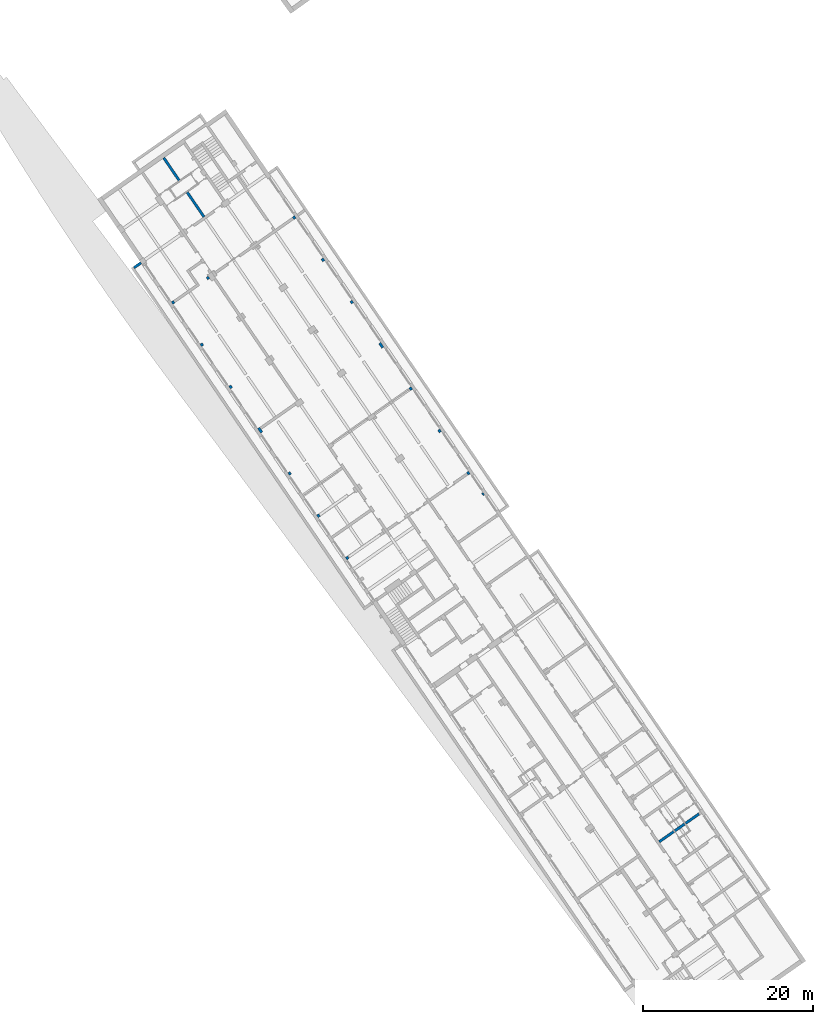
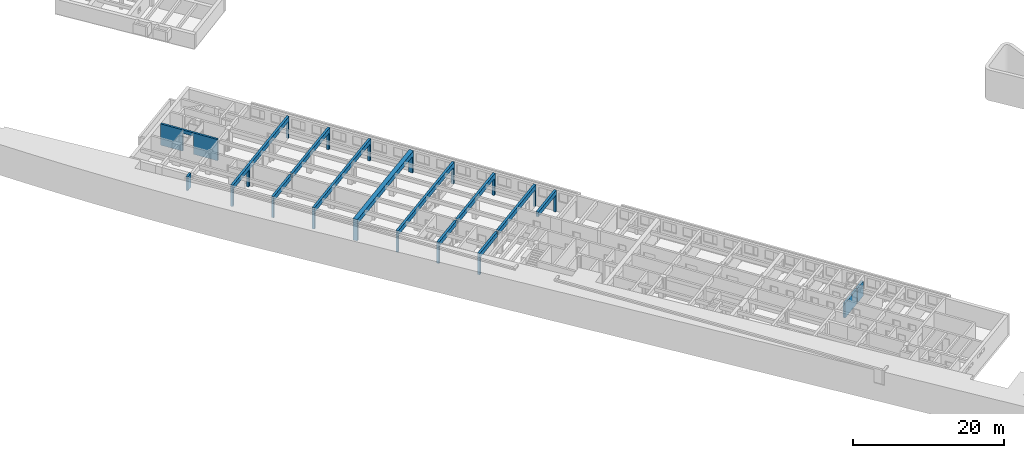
# One storey, part 106 of 112: 11 walls.
"""IFC2X3 building model written with IfcOpenShell, lengths in millimetres."""

import ifcopenshell
import ifcopenshell.guid

model = None  # the IFC model being written
_history = None  # IfcOwnerHistory: only IFC2X3 demands one
_inside = {}  # id of a spatial element -> (the spatial element, [elements in it])
_under = {}  # id of a project, library or spatial element -> (it, [spatial elements below it])
_declared = {}  # id of a project -> (the project, [libraries it declares])
_typed = {}  # id of a type object -> (the type object, [elements of that type])
_made_of = {}  # id of a material, layer set ... -> (it, [elements and type objects made of it])


def new_model(schema):
    """Start an empty IFC model of exactly this schema.

    Asked for "IFC4X3", IfcOpenShell would pick the latest addendum, in which some entities
    have other attributes; the version numbers below select the first issue.
    IFC2X3 requires an IfcOwnerHistory on every rooted entity: one is made here for all.
    """
    global model, _history
    if schema == "IFC4X3":
        model = ifcopenshell.file(schema_version=(4, 3, 0, 0))
    else:
        model = ifcopenshell.file(schema=schema)
    _inside.clear()
    _under.clear()
    _declared.clear()
    _typed.clear()
    _made_of.clear()
    _history = None
    if model.schema == "IFC2X3":
        org = make("IfcOrganization", Name="unknown")
        user = make(
            "IfcPersonAndOrganization",
            ThePerson=make("IfcPerson", FamilyName="unknown"),
            TheOrganization=org,
        )
        app = make(
            "IfcApplication",
            ApplicationDeveloper=org,
            Version="unknown",
            ApplicationFullName="unknown",
            ApplicationIdentifier="unknown",
        )
        _history = make(
            "IfcOwnerHistory",
            OwningUser=user,
            OwningApplication=app,
            ChangeAction="ADDED",
            CreationDate=0,
        )
    return model


def make(cls, **values):
    """One entity of the class cls with the attributes given. An attribute that is None is left unset."""
    return model.create_entity(
        cls, **{name: value for name, value in values.items() if value is not None}
    )


def entity(cls, *values):
    """Any entity or typed value of the class cls, its attributes in the order of the schema. None: left unset."""
    e = model.create_entity(cls)
    for i, value in enumerate(values):
        if value is not None:
            e[i] = value
    return e


def rooted(cls, **values):
    """An entity with a GlobalId (a new one), such as an element, a storey or a relation."""
    return make(cls, GlobalId=ifcopenshell.guid.new(), OwnerHistory=_history, **values)


def si_unit(unit_type, name, prefix=None):
    """IfcSIUnit, for example si_unit("LENGTHUNIT", "METRE", prefix="MILLI")."""
    return make("IfcSIUnit", UnitType=unit_type, Prefix=prefix, Name=name)


def converted_unit(unit_type, name, factor, base, dimensions=None, offset=None):
    """IfcConversionBasedUnit, such as the inch: factor (a typed value) times the base unit."""
    return make(
        "IfcConversionBasedUnit"
        if offset is None
        else "IfcConversionBasedUnitWithOffset",
        ConversionOffset=offset,
        Dimensions=None
        if dimensions is None
        else entity("IfcDimensionalExponents", *dimensions),
        UnitType=unit_type,
        Name=name,
        ConversionFactor=make(
            "IfcMeasureWithUnit", ValueComponent=factor, UnitComponent=base
        ),
    )


def derived_unit(unit_type, elements):
    """IfcDerivedUnit: a product of units, each with its exponent."""
    return make(
        "IfcDerivedUnit",
        Elements=[
            make("IfcDerivedUnitElement", Unit=unit, Exponent=power)
            for unit, power in elements
        ],
        UnitType=unit_type,
    )


def assignment(units):
    """IfcUnitAssignment: the units of a project."""
    return None if units is None else make("IfcUnitAssignment", Units=units)


def point(xyz):
    """IfcCartesianPoint."""
    return None if xyz is None else make("IfcCartesianPoint", Coordinates=xyz)


def direction(xyz):
    """IfcDirection."""
    return None if xyz is None else make("IfcDirection", DirectionRatios=xyz)


def frame(location, z_axis=None, x_axis=None):
    """IfcAxis2Placement3D, a coordinate frame: its origin and axes. An axis left out is left unset."""
    return make(
        "IfcAxis2Placement3D",
        Location=point(location),
        Axis=direction(z_axis),
        RefDirection=direction(x_axis),
    )


def origin():
    """The frame at (0, 0, 0) with its axes left unset."""
    return frame((0.0, 0.0, 0.0))


def place(relative_to, where):
    """IfcLocalPlacement: puts the frame where relative to a parent placement (None: the world)."""
    return make(
        "IfcLocalPlacement", PlacementRelTo=relative_to, RelativePlacement=where
    )


def context(
    kind, dimensions, precision=None, world=None, true_north=None, identifier=None
):
    """IfcGeometricRepresentationContext, for example the 3D "Model" context."""
    return make(
        "IfcGeometricRepresentationContext",
        ContextIdentifier=identifier,
        ContextType=kind,
        CoordinateSpaceDimension=dimensions,
        Precision=precision,
        WorldCoordinateSystem=world,
        TrueNorth=true_north,
    )


def subcontext(parent, identifier, kind, view, scale=None):
    """IfcGeometricRepresentationSubContext, for example "Body" below "Model"."""
    return make(
        "IfcGeometricRepresentationSubContext",
        ContextIdentifier=identifier,
        ContextType=kind,
        ParentContext=parent,
        TargetScale=scale,
        TargetView=view,
    )


def project(units=None, contexts=None):
    """IfcProject with its units and contexts."""
    return rooted(
        "IfcProject",
        Name="project",
        RepresentationContexts=contexts,
        UnitsInContext=assignment(units),
    )


def spatial(cls, under=None, at=None, **own):
    """A site, building, storey or space (cls), placed at a placement, below another one or the project."""
    s = rooted(cls, ObjectPlacement=at, **own)
    if under is not None:
        _under.setdefault(under.id(), (under, []))[1].append(s)
    return s


def faces_of(points, faces, orient=None, outer=None):
    """IfcFace entities. A face is a list of loops; a loop is a list of indices into points, from 0.

    orient and outer hold one flag for each loop. By default every Orientation is true, the
    first loop of a face is its IfcFaceOuterBound and the others are IfcFaceBound.
    """
    made = []
    for i, loops in enumerate(faces):
        bounds = []
        for j, loop in enumerate(loops):
            is_outer = j == 0 if outer is None else outer[i][j]
            bounds.append(
                make(
                    "IfcFaceOuterBound" if is_outer else "IfcFaceBound",
                    Bound=make("IfcPolyLoop", Polygon=[points[k] for k in loop]),
                    Orientation=True if orient is None else orient[i][j],
                )
            )
        made.append(make("IfcFace", Bounds=bounds))
    return made


def faceted_brep(points, faces, orient=None, outer=None, voids=None):
    """IfcFacetedBrep: a solid bounded by flat faces; with voids (closed shells), ...WithVoids."""
    shared = [point(p) for p in points]
    hull = make("IfcClosedShell", CfsFaces=faces_of(shared, faces, orient, outer))
    if voids is None:
        return make("IfcFacetedBrep", Outer=hull)
    return make(
        "IfcFacetedBrepWithVoids",
        Outer=hull,
        Voids=[
            make(cls, CfsFaces=faces_of(shared, fs, o, b)) for cls, fs, o, b in voids
        ],
    )


def shape(context_of_items, identifier, shape_type, items):
    """IfcShapeRepresentation: the items that make up one representation, for example the "Body"."""
    return make(
        "IfcShapeRepresentation",
        ContextOfItems=context_of_items,
        RepresentationIdentifier=identifier,
        RepresentationType=shape_type,
        Items=items,
    )


def material(Name=None, Category=None):
    """IfcMaterial."""
    return make("IfcMaterial", Name=Name, Category=Category)


def layer(
    of_material, thickness, ventilated=None, Name=None, Category=None, Priority=None
):
    """IfcMaterialLayer: one layer of a wall or slab, of a material (None: an air gap)."""
    return make(
        "IfcMaterialLayer",
        Material=of_material,
        LayerThickness=thickness,
        IsVentilated=ventilated,
        Name=Name,
        Category=Category,
        Priority=Priority,
    )


def layer_set(layers, Name=None):
    """IfcMaterialLayerSet."""
    return make("IfcMaterialLayerSet", MaterialLayers=layers, LayerSetName=Name)


def made_of(thing, what):
    """Note that an element or type object is made of a material, layer set ...; save() writes the relation."""
    if what is not None:
        _made_of.setdefault(what.id(), (what, []))[1].append(thing)
    return thing


def type_object(cls, material=None, **own):
    """A type object (cls), such as IfcWallType, which elements share."""
    return made_of(rooted(cls, **own), material)


def element(
    cls,
    number,
    at=None,
    inside=None,
    cuts=None,
    type_object=None,
    material=None,
    context=None,
    identifier="Body",
    shape_type=None,
    held_by="IfcProductDefinitionShape",
    body=None,
    shapes=None,
    **own,
):
    """One element of the class cls, such as IfcWall. Its Tag is "e" and its number.

    at: its placement. inside: the storey or other place that contains it. cuts: it is an
    opening in that element (IfcRelVoidsElement). A single representation is given by context,
    identifier, shape_type and body (its items); several are given by shapes. held_by: the class
    of the entity that holds the representations. save() writes the other relations.
    """
    e = rooted(cls, Tag="e%d" % number, ObjectPlacement=at, **own)
    if body is not None:
        shapes = [shape(context, identifier, shape_type, body)]
    if shapes is not None:
        e.Representation = make(held_by, Representations=shapes)
    if inside is not None:
        _inside.setdefault(inside.id(), (inside, []))[1].append(e)
    if cuts is not None:
        rooted(
            "IfcRelVoidsElement", RelatingBuildingElement=cuts, RelatedOpeningElement=e
        )
    if type_object is not None:
        _typed.setdefault(type_object.id(), (type_object, []))[1].append(e)
    return made_of(e, material)


def aggregate(whole, parts):
    """IfcRelAggregates: a whole, such as a stair, and the parts it consists of."""
    return rooted("IfcRelAggregates", RelatingObject=whole, RelatedObjects=parts)


def save(model, path):
    """Write the relations noted so far, then the file.

    IfcRelAggregates (storeys below a building ...), IfcRelContainedInSpatialStructure (elements
    in a storey), IfcRelDefinesByType, IfcRelAssociatesMaterial and IfcRelDeclares: one each for
    every whole, place, type object, material and project.
    """
    for whole, parts in _under.values():
        aggregate(whole, parts)
    for where, things in _inside.values():
        rooted(
            "IfcRelContainedInSpatialStructure",
            RelatedElements=things,
            RelatingStructure=where,
        )
    for kind, things in _typed.values():
        rooted("IfcRelDefinesByType", RelatedObjects=things, RelatingType=kind)
    for what, things in _made_of.values():
        rooted("IfcRelAssociatesMaterial", RelatedObjects=things, RelatingMaterial=what)
    for by, libraries in _declared.values():
        rooted("IfcRelDeclares", RelatingContext=by, RelatedDefinitions=libraries)
    model.write(path)


model = new_model("IFC2X3")

# Units and contexts
model_context = context("Model", 3, precision=0.01, world=origin(), true_north=direction((6.123031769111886e-17, 1.0)))
body_context = subcontext(model_context, "Body", "Model", "MODEL_VIEW")
ifc_project = project(units=[si_unit("LENGTHUNIT", "METRE", prefix="MILLI"), si_unit("AREAUNIT", "SQUARE_METRE"), si_unit("VOLUMEUNIT", "CUBIC_METRE"), converted_unit("PLANEANGLEUNIT", "DEGREE", entity("IfcRatioMeasure", 0.017453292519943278), si_unit("PLANEANGLEUNIT", "RADIAN"), dimensions=[0, 0, 0, 0, 0, 0, 0]), si_unit("MASSUNIT", "GRAM", prefix="KILO"), derived_unit("MASSDENSITYUNIT", [(si_unit("MASSUNIT", "GRAM", prefix="KILO"), 1), (si_unit("LENGTHUNIT", "METRE"), -3)]), derived_unit("MOMENTOFINERTIAUNIT", [(si_unit("LENGTHUNIT", "METRE"), 4)]), si_unit("TIMEUNIT", "SECOND"), si_unit("FREQUENCYUNIT", "HERTZ"), si_unit("THERMODYNAMICTEMPERATUREUNIT", "DEGREE_CELSIUS"), derived_unit("THERMALTRANSMITTANCEUNIT", [(si_unit("MASSUNIT", "GRAM", prefix="KILO"), 1), (si_unit("THERMODYNAMICTEMPERATUREUNIT", "KELVIN"), -1), (si_unit("TIMEUNIT", "SECOND"), -3)]), derived_unit("THERMALCONDUCTANCEUNIT", [(si_unit("MASSUNIT", "GRAM", prefix="KILO"), 1), (si_unit("LENGTHUNIT", "METRE"), 1), (si_unit("THERMODYNAMICTEMPERATUREUNIT", "KELVIN"), -1), (si_unit("TIMEUNIT", "SECOND"), -3)]), derived_unit("VOLUMETRICFLOWRATEUNIT", [(si_unit("LENGTHUNIT", "METRE"), 3), (si_unit("TIMEUNIT", "SECOND"), -1)]), derived_unit("MASSFLOWRATEUNIT", [(si_unit("MASSUNIT", "GRAM", prefix="KILO"), 1), (si_unit("TIMEUNIT", "SECOND"), -1)]), derived_unit("ROTATIONALFREQUENCYUNIT", [(si_unit("TIMEUNIT", "SECOND"), -1)]), si_unit("ELECTRICCURRENTUNIT", "AMPERE"), si_unit("ELECTRICVOLTAGEUNIT", "VOLT"), si_unit("POWERUNIT", "WATT"), converted_unit("FORCEUNIT", "KIP", entity("IfcRatioMeasure", 2.088543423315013e-05), si_unit("FORCEUNIT", "NEWTON"), dimensions=[1, 1, -2, 0, 0, 0, 0]), si_unit("ILLUMINANCEUNIT", "LUX"), si_unit("LUMINOUSFLUXUNIT", "LUMEN"), si_unit("LUMINOUSINTENSITYUNIT", "CANDELA"), derived_unit("USERDEFINED", [(si_unit("MASSUNIT", "GRAM", prefix="KILO"), -1), (si_unit("LENGTHUNIT", "METRE"), -2), (si_unit("TIMEUNIT", "SECOND"), 3), (si_unit("LUMINOUSFLUXUNIT", "LUMEN"), 1)]), derived_unit("USERDEFINED", [(si_unit("MASSUNIT", "GRAM", prefix="KILO"), 1), (si_unit("LENGTHUNIT", "METRE"), 3), (si_unit("TIMEUNIT", "SECOND"), -3), (si_unit("ELECTRICCURRENTUNIT", "AMPERE"), -2)]), derived_unit("USERDEFINED", [(si_unit("LENGTHUNIT", "METRE"), 2), (si_unit("TIMEUNIT", "SECOND"), -2)]), derived_unit("SOUNDPOWERUNIT", [(si_unit("MASSUNIT", "GRAM", prefix="KILO"), 1), (si_unit("LENGTHUNIT", "METRE"), 2), (si_unit("TIMEUNIT", "SECOND"), -3)]), derived_unit("SOUNDPRESSUREUNIT", [(si_unit("MASSUNIT", "GRAM", prefix="KILO"), 1), (si_unit("LENGTHUNIT", "METRE"), -1), (si_unit("TIMEUNIT", "SECOND"), -2)]), derived_unit("LINEARVELOCITYUNIT", [(si_unit("LENGTHUNIT", "METRE"), 1), (si_unit("TIMEUNIT", "SECOND"), -1)]), si_unit("PRESSUREUNIT", "PASCAL"), derived_unit("USERDEFINED", [(si_unit("LENGTHUNIT", "METRE"), -2), (si_unit("MASSUNIT", "GRAM", prefix="KILO"), 1), (si_unit("TIMEUNIT", "SECOND"), -2)]), derived_unit("LINEARFORCEUNIT", [(si_unit("MASSUNIT", "GRAM", prefix="KILO"), 1), (si_unit("LENGTHUNIT", "METRE"), 1), (si_unit("TIMEUNIT", "SECOND"), -2), (si_unit("LENGTHUNIT", "METRE"), -1)]), derived_unit("PLANARFORCEUNIT", [(si_unit("MASSUNIT", "GRAM", prefix="KILO"), 1), (si_unit("LENGTHUNIT", "METRE"), 1), (si_unit("TIMEUNIT", "SECOND"), -2), (si_unit("LENGTHUNIT", "METRE"), -2)]), derived_unit("SPECIFICHEATCAPACITYUNIT", [(si_unit("LENGTHUNIT", "METRE"), 2), (si_unit("TIMEUNIT", "SECOND"), -2), (si_unit("THERMODYNAMICTEMPERATUREUNIT", "KELVIN"), -1)]), derived_unit("VAPORPERMEABILITYUNIT", [(si_unit("TIMEUNIT", "SECOND"), 1), (si_unit("LENGTHUNIT", "METRE"), -1)]), derived_unit("DYNAMICVISCOSITYUNIT", [(si_unit("MASSUNIT", "GRAM", prefix="KILO"), 1), (si_unit("LENGTHUNIT", "METRE"), -1), (si_unit("TIMEUNIT", "SECOND"), -1)]), derived_unit("THERMALEXPANSIONCOEFFICIENTUNIT", [(si_unit("THERMODYNAMICTEMPERATUREUNIT", "KELVIN"), -1)])], contexts=[model_context])

# Site, building, storey
site_placement = place(None, frame((0.0, 0.0, 0.0), z_axis=(0.0, 0.0, 1.0), x_axis=(0.8191520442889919, 0.5735764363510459, 0.0)))
site = spatial("IfcSite", under=ifc_project, at=site_placement, Name="Default", CompositionType="ELEMENT")
building_placement = place(site_placement, origin())
building = spatial("IfcBuilding", under=site, at=building_placement, CompositionType="ELEMENT")
storey_placement = place(building_placement, frame((0.0, 0.0, -3600.0)))
storey = spatial("IfcBuildingStorey", under=building, at=storey_placement, Name="0.UG -3.60", CompositionType="ELEMENT", Elevation=-3600.0000000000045)

# Walls
ifc_material = material(Name="Analytical Wall Surface_CJC")
ifc_layer_1 = layer(ifc_material, 300.0)
ifc_layer_set_1 = layer_set([ifc_layer_1], Name="Basic Wall:Wand_Innen_30")
wall_type_1 = type_object("IfcWallType", Name="Basic Wall:Wand_Innen_30", PredefinedType="STANDARD", material=ifc_layer_set_1)
wall_1_placement = place(storey_placement, frame((-205935.31932101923, 73396.35891435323, 300.0), z_axis=(0.0, 0.0, 1.0), x_axis=(-1.0, 0.0, 0.0)))
element("IfcWall", 1, at=wall_1_placement, inside=storey, type_object=wall_type_1, Name="Basic Wall:Wand_Innen_30", ObjectType="Basic Wall:Wand_Innen_30", context=body_context, shape_type="Brep", body=[
    faceted_brep([(0.0, -150.0, 2400.0), (0.0, -150.0, 0.0), (1923.2740297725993, -150.0, 0.0), (1923.2740297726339, -150.0, 2400.0), (0.0, 150.0, 0.0), (1927.0932155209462, 150.0, 0.0), (0.0, 150.0, 2400.0), (1927.0932155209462, 150.0, 2400.0)], [[[0, 1, 2, 3]], [[1, 4, 5, 2]], [[1, 0, 6, 4]], [[3, 2, 5, 7]], [[6, 0, 3, 7]], [[4, 6, 7, 5]]]),
    faceted_brep([(5702.399107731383, 150.0, 2400.0), (5702.399107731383, 150.0, 0.0), (2052.1033444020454, 150.0, 0.0), (2052.1033444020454, 150.0, 2400.0), (3472.218408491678, 150.0, 2400.0), (3472.218408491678, 150.0, 2150.0), (3602.228942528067, 150.0, 2150.0), (3602.228942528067, 150.0, 2400.0), (5698.579921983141, -150.0, 2400.0), (3598.409756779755, -150.0, 2400.0), (5698.579921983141, -150.0, 0.0), (3468.3992227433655, -150.0, 2400.0), (3468.3992227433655, -150.0, 0.0), (3472.0020312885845, 133.0034030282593, 0.0), (3472.0020312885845, 133.00340302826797, 2150.0), (3598.409756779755, -150.0, 0.0), (3601.9914981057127, 131.34855663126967, 2150.0), (3601.9914981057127, 131.34855663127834, 0.0), (2048.2841586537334, -150.0, 0.0), (2048.2841586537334, -150.0, 2400.0)], [[[0, 1, 2, 3, 4, 5, 6, 7]], [[8, 0, 7, 9]], [[8, 10, 1, 0]], [[11, 12, 13, 14, 5, 4]], [[15, 9, 7, 6, 16, 17]], [[18, 19, 3, 2]], [[14, 13, 17, 16]], [[14, 16, 6, 5]], [[11, 4, 3, 19]], [[1, 10, 15, 17, 13, 12, 18, 2]], [[12, 11, 19, 18]], [[10, 8, 9, 15]]]),
])
wall_2_placement = place(storey_placement, frame((-213330.76039386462, 164144.44947620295, 0.0), z_axis=(0.0, 0.0, 1.0), x_axis=(0.012729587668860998, 0.999918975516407, 0.0)))
element("IfcWall", 2, at=wall_2_placement, inside=storey, type_object=wall_type_1, Name="Basic Wall:Wand_Innen_30", ObjectType="Basic Wall:Wand_Innen_30", context=body_context, shape_type="Brep", body=[
    faceted_brep([(3.819185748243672, -150.0, 0.0), (3504.1027944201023, -150.0, 0.0), (3504.1027944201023, -150.0, 2900.0), (3629.1129233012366, -150.0, 2900.0), (5029.226366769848, -150.0, 2900.0), (5154.236495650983, -150.0, 2900.0), (5154.236495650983, -150.0, 0.0), (8379.497820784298, -150.0, 0.0), (8379.497820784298, -150.0, 3450.0), (5154.236495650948, -150.0, 3450.0), (5029.226366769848, -150.0, 3450.0), (3629.1129233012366, -150.0, 3450.0), (3504.102794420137, -150.0, 3450.0), (3.819185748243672, -150.0, 3450.0), (0.0, 150.0, 0.0), (0.0, 150.0, 3450.0), (3500.283608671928, 150.0, 3450.0), (3625.2937375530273, 150.0, 3450.0), (5025.407181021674, 150.0, 3450.0), (5150.417309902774, 150.0, 3450.0), (8375.678635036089, 150.0, 3450.0), (8375.678635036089, 150.0, 0.0), (5150.417309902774, 150.0, 0.0), (5150.417309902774, 150.0, 2900.0), (5025.407181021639, 150.0, 2900.0), (3625.2937375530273, 150.0, 2900.0), (3500.2836086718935, 150.0, 2900.0), (3500.2836086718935, 150.0, 0.0)], [[[0, 1, 2, 3, 4, 5, 6, 7, 8, 9, 10, 11, 12, 13]], [[14, 15, 16, 17, 18, 19, 20, 21, 22, 23, 24, 25, 26, 27]], [[0, 13, 15, 14]], [[8, 7, 21, 20]], [[1, 0, 14, 27]], [[13, 12, 11, 10, 9, 8, 20, 19, 18, 17, 16, 15]], [[5, 4, 3, 2, 26, 25, 24, 23]], [[7, 6, 22, 21]], [[2, 1, 27, 26]], [[6, 5, 23, 22]]]),
])
ifc_layer_2 = layer(ifc_material, 350.0)
ifc_layer_set_2 = layer_set([ifc_layer_2], Name="Basic Wall:Wand_Innen_35")
wall_type_2 = type_object("IfcWallType", Name="Basic Wall:Wand_Innen_35", PredefinedType="STANDARD", material=ifc_layer_set_2)
wall_3_placement = place(storey_placement, frame((-204708.8626845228, 145996.35891435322, 0.0), z_axis=(0.0, 0.0, 1.0), x_axis=(-1.0, 0.0, 0.0)))
element("IfcWall", 3, at=wall_3_placement, inside=storey, type_object=wall_type_2, Name="Basic Wall:Wand_Innen_35", ObjectType="Basic Wall:Wand_Innen_35", context=body_context, shape_type="Brep", body=[
    faceted_brep([(0.0, -175.0, 0.0), (302.21368542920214, -175.0, 0.0), (302.21368542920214, -175.0, 2700.0), (5377.701174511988, -175.0, 2700.0), (6277.701174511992, -175.0, 2700.0), (11454.004437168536, -175.0, 2700.0), (12354.00443716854, -175.0, 2700.0), (17353.635057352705, -175.0, 2700.0), (17353.635057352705, -175.0, 0.0), (17651.370045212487, -175.0, 0.0), (17651.370045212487, -175.0, 3450.0), (15347.612322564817, -175.0, 3450.0), (15047.588013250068, -175.0, 3450.0), (12354.00443716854, -175.0, 3450.0), (11454.004437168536, -175.0, 3450.0), (9000.718435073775, -175.0, 3450.0), (8700.694125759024, -175.0, 3450.0), (6277.701174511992, -175.0, 3450.0), (6000.475341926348, -175.0, 3450.0), (5700.451032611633, -175.0, 3450.0), (5377.701174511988, -175.0, 3450.0), (3077.346445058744, -175.0, 3450.0), (2777.322135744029, -175.0, 3450.0), (0.0, -175.0, 3450.0), (4.455731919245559, 175.0, 0.0), (4.455731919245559, 175.0, 3450.0), (2781.77785245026, 175.0, 3450.0), (3081.8021617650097, 175.0, 3450.0), (5377.701174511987, 175.0, 3450.0), (5704.9067493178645, 175.0, 3450.0), (6004.931058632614, 175.0, 3450.0), (6277.701174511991, 175.0, 3450.0), (8705.149842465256, 175.0, 3450.0), (9005.174151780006, 175.0, 3450.0), (11454.004437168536, 175.0, 3450.0), (12354.00443716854, 175.0, 3450.0), (15052.0437299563, 175.0, 3450.0), (15352.068039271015, 175.0, 3450.0), (17655.825761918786, 175.0, 3450.0), (17655.825761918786, 175.0, 0.0), (17353.635057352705, 175.0, 0.0), (17353.635057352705, 175.0, 2700.0), (12354.00443716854, 175.0, 2700.0), (11454.004437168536, 175.0, 2700.0), (6277.701174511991, 175.0, 2700.0), (5377.701174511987, 175.0, 2700.0), (302.21368542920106, 175.0, 2700.0), (302.21368542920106, 175.0, 0.0)], [[[0, 1, 2, 3, 4, 5, 6, 7, 8, 9, 10, 11, 12, 13, 14, 15, 16, 17, 18, 19, 20, 21, 22, 23]], [[24, 25, 26, 27, 28, 29, 30, 31, 32, 33, 34, 35, 36, 37, 38, 39, 40, 41, 42, 43, 44, 45, 46, 47]], [[10, 9, 39, 38]], [[0, 23, 25, 24]], [[23, 22, 21, 20, 19, 18, 17, 16, 15, 14, 13, 12, 11, 10, 38, 37, 36, 35, 34, 33, 32, 31, 30, 29, 28, 27, 26, 25]], [[1, 0, 24, 47]], [[2, 1, 47, 46]], [[7, 6, 5, 4, 3, 2, 46, 45, 44, 43, 42, 41]], [[8, 7, 41, 40]], [[9, 8, 40, 39]]]),
])
wall_4_placement = place(storey_placement, frame((-204632.47870876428, 151996.35891435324, 0.0), z_axis=(0.0, 0.0, 1.0), x_axis=(-1.0, 0.0, 0.0)))
element("IfcWall", 4, at=wall_4_placement, inside=storey, type_object=wall_type_2, Name="Basic Wall:Wand_Innen_35", ObjectType="Basic Wall:Wand_Innen_35", context=body_context, shape_type="Brep", body=[
    faceted_brep([(0.0, -175.0, 0.0), (302.25373875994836, -175.0, 0.0), (302.25373875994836, -175.0, 2700.0), (5377.701435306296, -175.0, 2700.0), (6277.701435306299, -175.0, 2700.0), (11452.680290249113, -175.0, 2700.0), (11751.01328274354, -175.0, 2700.0), (11751.01328274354, -175.0, 3450.0), (11452.680290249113, -175.0, 3450.0), (9000.718695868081, -175.0, 3450.0), (8700.694386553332, -175.0, 3450.0), (6277.701435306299, -175.0, 3450.0), (6000.47560272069, -175.0, 3450.0), (5700.451293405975, -175.0, 3450.0), (5377.701435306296, -175.0, 3450.0), (3077.346705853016, -175.0, 3450.0), (2777.322396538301, -175.0, 3450.0), (0.0, -175.0, 3450.0), (4.455731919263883, 175.0, 0.0), (302.2537387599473, 175.0, 0.0), (302.2537387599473, 175.0, 2700.0), (5377.701435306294, 175.0, 2700.0), (6277.701435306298, 175.0, 2700.0), (11452.68029024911, 175.0, 2700.0), (11755.47284495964, 175.0, 2700.0), (4.455731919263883, 175.0, 3450.0), (11755.47284495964, 175.0, 3450.0), (11452.68029024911, 175.0, 3450.0), (9005.174412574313, 175.0, 3450.0), (8705.150103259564, 175.0, 3450.0), (6277.701435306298, 175.0, 3450.0), (6004.931319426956, 175.0, 3450.0), (5704.907010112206, 175.0, 3450.0), (5377.701435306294, 175.0, 3450.0), (3081.8024225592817, 175.0, 3450.0), (2781.778113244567, 175.0, 3450.0)], [[[0, 1, 2, 3, 4, 5, 6, 7, 8, 9, 10, 11, 12, 13, 14, 15, 16, 17]], [[1, 0, 18, 19]], [[2, 1, 19, 20]], [[2, 20, 21, 22, 23, 24, 6, 5, 4, 3]], [[0, 17, 25, 18]], [[7, 6, 24, 26]], [[25, 17, 16, 15, 14, 13, 12, 11, 10, 9, 8, 7, 26, 27, 28, 29, 30, 31, 32, 33, 34, 35]], [[19, 18, 25, 35, 34, 33, 32, 31, 30, 29, 28, 27, 26, 24, 23, 22, 21, 20]]]),
    faceted_brep([(17353.675110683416, 175.0, 0.0), (17353.675110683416, 175.0, 2700.0), (12352.680290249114, 175.0, 2700.0), (12055.497196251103, 175.0, 2700.0), (12055.497196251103, 175.0, 3450.0), (12352.680290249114, 175.0, 3450.0), (15052.04399075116, 175.0, 3450.0), (15352.068300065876, 175.0, 3450.0), (17655.826022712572, 175.0, 3450.0), (17655.826022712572, 175.0, 0.0), (17651.37030600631, -175.0, 3450.0), (12051.037634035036, -175.0, 3450.0), (12352.680290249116, -175.0, 3450.0), (15047.58827404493, -175.0, 3450.0), (15347.61258335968, -175.0, 3450.0), (17353.67511068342, -175.0, 0.0), (17353.67511068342, -175.0, 2700.0), (17651.37030600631, -175.0, 0.0), (12051.037634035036, -175.0, 2700.0), (12352.680290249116, -175.0, 2700.0)], [[[0, 1, 2, 3, 4, 5, 6, 7, 8, 9]], [[10, 8, 7, 6, 5, 4, 11, 12, 13, 14]], [[15, 16, 1, 0]], [[17, 15, 0, 9]], [[10, 17, 9, 8]], [[18, 11, 4, 3]], [[1, 16, 19, 18, 3, 2]], [[16, 15, 17, 10, 14, 13, 12, 11, 18, 19]]]),
])
wall_5_placement = place(storey_placement, frame((-204556.0947330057, 157996.35891435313, 0.0), z_axis=(0.0, 0.0, 1.0), x_axis=(-1.0, 0.0, 0.0)))
element("IfcWall", 5, at=wall_5_placement, inside=storey, type_object=wall_type_2, Name="Basic Wall:Wand_Innen_35", ObjectType="Basic Wall:Wand_Innen_35", context=body_context, shape_type="Brep", body=[
    faceted_brep([(0.0, -175.0, 0.0), (300.3444066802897, -175.0, 0.0), (300.3444066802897, -175.0, 2700.0), (2777.334471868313, -175.0, 2700.0), (3077.358781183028, -175.0, 2700.0), (5382.701696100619, -175.0, 2700.0), (6282.701696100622, -175.0, 2700.0), (11453.187882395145, -175.0, 2700.0), (11750.954265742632, -175.0, 2700.0), (12351.002900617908, -175.0, 2700.0), (12351.002900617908, -175.0, 0.0), (12353.187882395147, -175.0, 0.0), (12653.254733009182, -175.0, 0.0), (12653.254733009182, -175.0, 2700.0), (17351.76577860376, -175.0, 2700.0), (17351.76577860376, -175.0, 0.0), (17651.370566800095, -175.0, 0.0), (17651.370566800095, -175.0, 3450.0), (15347.61284415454, -175.0, 3450.0), (15047.588534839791, -175.0, 3450.0), (12353.187882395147, -175.0, 3450.0), (12351.002900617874, -175.0, 3450.0), (11750.954265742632, -175.0, 3450.0), (11453.187882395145, -175.0, 3450.0), (9000.71895666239, -175.0, 3450.0), (8700.69464734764, -175.0, 3450.0), (6282.701696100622, -175.0, 3450.0), (6000.475863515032, -175.0, 3450.0), (5700.451554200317, -175.0, 3450.0), (5382.701696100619, -175.0, 3450.0), (3077.358781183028, -175.0, 3450.0), (2777.3344718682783, -175.0, 3450.0), (0.0, -175.0, 3450.0), (4.455731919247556, 175.0, 0.0), (4.455731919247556, 175.0, 3450.0), (2781.7783740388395, 175.0, 3450.0), (3081.8026833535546, 175.0, 3450.0), (5382.701696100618, 175.0, 3450.0), (5704.907270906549, 175.0, 3450.0), (6004.931580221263, 175.0, 3450.0), (6282.701696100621, 175.0, 3450.0), (8705.15036405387, 175.0, 3450.0), (9005.17467336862, 175.0, 3450.0), (11453.187882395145, 175.0, 3450.0), (11755.410726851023, 175.0, 3450.0), (15052.044251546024, 175.0, 3450.0), (15352.068560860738, 175.0, 3450.0), (17655.82628350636, 175.0, 3450.0), (17655.82628350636, 175.0, 0.0), (17351.76577860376, 175.0, 0.0), (17351.76577860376, 175.0, 2700.0), (12653.254733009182, 175.0, 2700.0), (12653.254733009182, 175.0, 0.0), (12355.459361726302, 175.0, 0.0), (12355.459361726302, 175.0, 2700.0), (11755.410726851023, 175.0, 2700.0), (11453.187882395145, 175.0, 2700.0), (6282.701696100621, 175.0, 2700.0), (5382.701696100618, 175.0, 2700.0), (300.3444066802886, 175.0, 2700.0), (300.3444066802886, 175.0, 0.0), (300.3444066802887, 150.0, 0.0), (300.34440668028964, -150.0, 0.0), (17351.76577860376, 150.0, 0.0), (17351.76577860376, -150.0, 0.0)], [[[0, 1, 2, 3, 4, 5, 6, 7, 8, 9, 10, 11, 12, 13, 14, 15, 16, 17, 18, 19, 20, 21, 22, 23, 24, 25, 26, 27, 28, 29, 30, 31, 32]], [[33, 34, 35, 36, 37, 38, 39, 40, 41, 42, 43, 44, 45, 46, 47, 48, 49, 50, 51, 52, 53, 54, 55, 56, 57, 58, 59, 60]], [[32, 31, 30, 29, 28, 27, 26, 25, 24, 23, 22, 21, 20, 19, 18, 17, 47, 46, 45, 44, 43, 42, 41, 40, 39, 38, 37, 36, 35, 34]], [[1, 0, 33, 60, 61, 62]], [[2, 1, 62, 61, 60, 59]], [[14, 13, 51, 50]], [[15, 14, 50, 49, 63, 64]], [[16, 15, 64, 63, 49, 48]], [[17, 16, 48, 47]], [[0, 32, 34, 33]], [[9, 8, 7, 6, 5, 4, 3, 2, 59, 58, 57, 56, 55, 54]], [[12, 11, 10, 53, 52]], [[13, 12, 52, 51]], [[10, 9, 54, 53]]]),
])
wall_6_placement = place(storey_placement, frame((-204941.83381058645, 127696.35891435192, 0.0), z_axis=(0.0, 0.0, 1.0), x_axis=(-1.0, 0.0, 0.0)))
element("IfcWall", 6, at=wall_6_placement, inside=storey, type_object=wall_type_2, Name="Basic Wall:Wand_Innen_35", ObjectType="Basic Wall:Wand_Innen_35", context=body_context, shape_type="Brep", body=[
    faceted_brep([(0.0, -175.0, 0.0), (302.2128900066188, -175.0, 0.0), (302.2128900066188, -175.0, 2700.0), (5352.70037908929, -175.0, 2700.0), (6302.700379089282, -175.0, 2700.0), (11449.831011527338, -175.0, 2700.0), (11750.952629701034, -175.0, 2700.0), (11750.952629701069, -175.0, 3450.0), (11449.831011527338, -175.0, 3450.0), (9000.717639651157, -175.0, 3450.0), (8700.693330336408, -175.0, 3450.0), (6302.700379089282, -175.0, 3450.0), (6000.474546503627, -175.0, 3450.0), (5700.450237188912, -175.0, 3450.0), (5352.70037908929, -175.0, 3450.0), (3077.3456496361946, -175.0, 3450.0), (2777.321340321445, -175.0, 3450.0), (0.0, -175.0, 3450.0), (4.455731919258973, 175.0, 0.0), (302.2128900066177, 175.0, 0.0), (302.2128900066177, 175.0, 2700.0), (5352.700379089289, 175.0, 2700.0), (6302.70037908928, 175.0, 2700.0), (11449.831011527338, 175.0, 2700.0), (11755.408346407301, 175.0, 2700.0), (4.455731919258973, 175.0, 3450.0), (11755.408346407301, 175.0, 3450.0), (11449.831011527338, 175.0, 3450.0), (9005.173356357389, 175.0, 3450.0), (8705.149047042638, 175.0, 3450.0), (6302.70037908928, 175.0, 3450.0), (6004.930263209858, 175.0, 3450.0), (5704.905953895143, 175.0, 3450.0), (5352.700379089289, 175.0, 3450.0), (3081.801366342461, 175.0, 3450.0), (2781.777057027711, 175.0, 3450.0)], [[[0, 1, 2, 3, 4, 5, 6, 7, 8, 9, 10, 11, 12, 13, 14, 15, 16, 17]], [[1, 0, 18, 19]], [[2, 1, 19, 20]], [[2, 20, 21, 22, 23, 24, 6, 5, 4, 3]], [[0, 17, 25, 18]], [[7, 6, 24, 26]], [[25, 17, 16, 15, 14, 13, 12, 11, 10, 9, 8, 7, 26, 27, 28, 29, 30, 31, 32, 33, 34, 35]], [[19, 18, 25, 35, 34, 33, 32, 31, 30, 29, 28, 27, 26, 24, 23, 22, 21, 20]]]),
    faceted_brep([(17655.824966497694, 175.0, 0.0), (17353.63426193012, 175.0, 0.0), (17353.63426193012, 175.0, 900.0), (17353.63426193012, 175.0, 2700.0), (13303.634261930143, 175.0, 2700.0), (12349.83101152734, 175.0, 2700.0), (12055.432655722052, 175.0, 2700.0), (12055.432655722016, 175.0, 3450.0), (12349.83101152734, 175.0, 3450.0), (15052.042934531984, 175.0, 3450.0), (15352.067243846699, 175.0, 3450.0), (17655.824966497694, 175.0, 3450.0), (17651.369249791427, -175.0, 3450.0), (12050.976939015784, -175.0, 3450.0), (12349.83101152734, -175.0, 3450.0), (15047.58721782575, -175.0, 3450.0), (15347.611527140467, -175.0, 3450.0), (17353.63426193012, -175.0, 2700.0), (17353.63426193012, 150.0, 0.0), (17353.63426193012, -150.0, 0.0), (17353.63426193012, -175.0, 0.0), (17353.63426193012, -175.0, 900.0), (17651.369249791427, -175.0, 0.0), (12050.976939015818, -175.0, 2700.0), (13303.634261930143, -175.0, 2700.0), (12349.83101152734, -175.0, 2700.0)], [[[0, 1, 2, 3, 4, 5, 6, 7, 8, 9, 10, 11]], [[12, 11, 10, 9, 8, 7, 13, 14, 15, 16]], [[17, 3, 2, 1, 18, 19, 20, 21]], [[22, 20, 19, 18, 1, 0]], [[12, 22, 0, 11]], [[23, 13, 7, 6]], [[3, 17, 24, 25, 23, 6, 5, 4]], [[20, 22, 12, 16, 15, 14, 13, 23, 25, 24, 17, 21]]]),
])
wall_7_placement = place(storey_placement, frame((-205018.217786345, 121696.35891435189, 0.0), z_axis=(0.0, 0.0, 1.0), x_axis=(-1.0, 0.0, 0.0)))
element("IfcWall", 7, at=wall_7_placement, inside=storey, type_object=wall_type_2, Name="Basic Wall:Wand_Innen_35", ObjectType="Basic Wall:Wand_Innen_35", context=body_context, shape_type="Brep", body=[
    faceted_brep([(0.0, -175.0, 0.0), (302.2126292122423, -175.0, 0.0), (302.2126292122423, -175.0, 2700.0), (11750.95236890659, -175.0, 2700.0), (11750.95236890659, -175.0, 3450.0), (9000.71737885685, -175.0, 3450.0), (8700.6930695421, -175.0, 3450.0), (3077.345388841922, -175.0, 3450.0), (2777.3210795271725, -175.0, 3450.0), (0.0, -175.0, 3450.0), (4.455731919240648, 175.0, 0.0), (302.2126292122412, 175.0, 0.0), (302.2126292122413, 150.0, 0.0), (302.21262921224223, -150.0, 0.0), (302.2126292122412, 175.0, 2700.0), (8705.148651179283, 175.0, 2700.0), (9005.172960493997, 175.0, 2700.0), (11755.40808561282, 175.0, 2700.0), (4.455731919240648, 175.0, 3450.0), (11755.40808561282, 175.0, 3450.0), (9005.172960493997, 175.0, 3450.0), (8705.148651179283, 175.0, 3450.0)], [[[0, 1, 2, 3, 4, 5, 6, 7, 8, 9]], [[1, 0, 10, 11, 12, 13]], [[2, 1, 13, 12, 11, 14]], [[2, 14, 15, 16, 17, 3]], [[0, 9, 18, 10]], [[4, 3, 17, 19]], [[18, 9, 8, 7, 6, 5, 4, 19, 20, 21]], [[11, 10, 18, 21, 20, 19, 17, 16, 15, 14]]]),
    faceted_brep([(17353.634001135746, 175.0, 0.0), (17353.634001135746, 175.0, 2700.0), (17255.170851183, 175.0, 2700.0), (12755.170851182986, 175.0, 2700.0), (12055.43239492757, 175.0, 2700.0), (12055.43239492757, 175.0, 3450.0), (17655.824705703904, 175.0, 3450.0), (17655.824705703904, 175.0, 0.0), (17651.36898899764, -175.0, 3450.0), (12050.976678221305, -175.0, 3450.0), (15047.586957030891, -175.0, 3450.0), (15347.611266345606, -175.0, 3450.0), (17353.634001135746, -175.0, 0.0), (17353.634001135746, -175.0, 2700.0), (17353.634001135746, 150.0, 0.0), (17353.634001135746, -150.0, 0.0), (17651.36898899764, -175.0, 0.0), (12050.97667822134, -175.0, 2700.0), (17255.170851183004, -175.0, 2700.0), (12755.170851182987, -175.0, 2700.0)], [[[0, 1, 2, 3, 4, 5, 6, 7]], [[8, 6, 5, 9, 10, 11]], [[12, 13, 1, 0, 14, 15]], [[16, 12, 15, 14, 0, 7]], [[8, 16, 7, 6]], [[17, 9, 5, 4]], [[1, 13, 18, 19, 17, 4, 3, 2]], [[13, 12, 16, 8, 11, 10, 9, 17, 19, 18]]]),
])
wall_8_placement = place(storey_placement, frame((-205056.40977422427, 118696.3589143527, 0.0), z_axis=(0.0, 0.0, 1.0), x_axis=(-1.0, 0.0, 0.0)))
element("IfcWall", 8, at=wall_8_placement, inside=storey, type_object=wall_type_2, Name="Basic Wall:Wand_Innen_35", ObjectType="Basic Wall:Wand_Innen_35", context=body_context, shape_type="Brep", body=[
    faceted_brep([(0.0, -175.0, 0.0), (202.20439571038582, -175.0, 0.0), (202.20439571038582, -175.0, 2700.0), (5700.449845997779, -175.0, 2700.0), (5700.449845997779, -175.0, 3450.0), (0.0, -175.0, 3450.0), (202.2043957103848, 175.0, 0.0), (4.455731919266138, 175.0, 0.0), (4.455731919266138, 175.0, 3450.0), (5704.90556270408, 175.0, 3450.0), (5704.90556270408, 175.0, 2700.0), (202.2043957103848, 175.0, 2700.0)], [[[0, 1, 2, 3, 4, 5]], [[6, 7, 8, 9, 10, 11]], [[1, 0, 7, 6]], [[2, 1, 6, 11]], [[3, 2, 11, 10]], [[5, 4, 9, 8]], [[0, 5, 8, 7]], [[4, 3, 10, 9]]]),
])
wall_9_placement = place(storey_placement, frame((-204865.44983482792, 133696.35891435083, 0.0), z_axis=(0.0, 0.0, 1.0), x_axis=(-1.0, 0.0, 0.0)))
element("IfcWall", 9, at=wall_9_placement, inside=storey, type_object=wall_type_2, Name="Basic Wall:Wand_Innen_35", ObjectType="Basic Wall:Wand_Innen_35", context=body_context, shape_type="Brep", body=[
    faceted_brep([(17651.369510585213, -175.0, 3450.0), (15347.61178793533, -175.0, 3450.0), (15047.587478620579, -175.0, 3450.0), (9000.71790044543, -175.0, 3450.0), (8700.693591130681, -175.0, 3450.0), (6000.474807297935, -175.0, 3450.0), (5700.450497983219, -175.0, 3450.0), (3077.3459104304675, -175.0, 3450.0), (2777.321601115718, -175.0, 3450.0), (0.0, -175.0, 3450.0), (0.0, -175.0, 0.0), (302.2131508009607, -175.0, 0.0), (302.2131508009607, -175.0, 2700.0), (17353.634522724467, -175.0, 2700.0), (17353.634522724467, -175.0, 0.0), (17651.369510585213, -175.0, 0.0), (4.455731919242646, 175.0, 3450.0), (2781.7773178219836, 175.0, 3450.0), (3081.8016271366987, 175.0, 3450.0), (5704.90621468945, 175.0, 3450.0), (6004.9305240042, 175.0, 3450.0), (8705.149307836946, 175.0, 3450.0), (9005.173617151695, 175.0, 3450.0), (15052.043195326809, 175.0, 3450.0), (15352.067504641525, 175.0, 3450.0), (17655.82522729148, 175.0, 3450.0), (17655.82522729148, 175.0, 0.0), (17353.634522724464, 175.0, 0.0), (17353.634522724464, 175.0, 2700.0), (302.2131508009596, 175.0, 2700.0), (302.2131508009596, 175.0, 0.0), (4.455731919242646, 175.0, 0.0), (302.2131508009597, 150.0, 0.0), (302.21315080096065, -150.0, 0.0)], [[[0, 1, 2, 3, 4, 5, 6, 7, 8, 9, 10, 11, 12, 13, 14, 15]], [[16, 17, 18, 19, 20, 21, 22, 23, 24, 25, 26, 27, 28, 29, 30, 31]], [[9, 8, 7, 6, 5, 4, 3, 2, 1, 0, 25, 24, 23, 22, 21, 20, 19, 18, 17, 16]], [[11, 10, 31, 30, 32, 33]], [[12, 11, 33, 32, 30, 29]], [[13, 12, 29, 28]], [[14, 13, 28, 27]], [[15, 14, 27, 26]], [[0, 15, 26, 25]], [[10, 9, 16, 31]]]),
])
ifc_layer_3 = layer(ifc_material, 650.0)
ifc_layer_set_3 = layer_set([ifc_layer_3], Name="Basic Wall:Wand_Innen_65")
wall_type_3 = type_object("IfcWallType", Name="Basic Wall:Wand_Innen_65", PredefinedType="STANDARD", material=ifc_layer_set_3)
wall_10_placement = place(storey_placement, frame((-204785.24666028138, 139846.35891435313, 0.0), z_axis=(0.0, 0.0, 1.0), x_axis=(-1.0, 0.0, 0.0)))
element("IfcWall", 10, at=wall_10_placement, inside=storey, type_object=wall_type_3, Name="Basic Wall:Wand_Innen_65", ObjectType="Basic Wall:Wand_Innen_65", context=body_context, shape_type="Brep", body=[
    faceted_brep([(0.0, -325.0, 0.0), (304.12328482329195, -325.0, 0.0), (304.12328482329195, -325.0, 2700.0), (5383.711493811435, -325.0, 2700.0), (6283.711493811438, -325.0, 2700.0), (11459.203757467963, -325.0, 2700.0), (12359.203757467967, -325.0, 2700.0), (17355.582879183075, -325.0, 2700.0), (17355.582879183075, -325.0, 0.0), (17651.369784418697, -325.0, 0.0), (17651.369784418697, -325.0, 3450.0), (15347.612061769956, -325.0, 3450.0), (15047.587752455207, -325.0, 3450.0), (12050.977473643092, -325.0, 3450.0), (11750.953164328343, -325.0, 3450.0), (9000.718174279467, -325.0, 3450.0), (8700.693864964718, -325.0, 3450.0), (6000.475081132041, -325.0, 3450.0), (5700.450771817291, -325.0, 3450.0), (3077.346184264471, -325.0, 3450.0), (2777.3218749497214, -325.0, 3450.0), (0.0, -325.0, 3450.0), (8.274930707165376, 325.0, 0.0), (8.274930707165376, 325.0, 3450.0), (2785.5967774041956, 325.0, 3450.0), (3085.6210867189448, 325.0, 3450.0), (5708.72567427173, 325.0, 3450.0), (6008.74998358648, 325.0, 3450.0), (8708.968767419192, 325.0, 3450.0), (9008.993076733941, 325.0, 3450.0), (11759.228066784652, 325.0, 3450.0), (12059.252376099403, 325.0, 3450.0), (15055.862654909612, 325.0, 3450.0), (15355.886964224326, 325.0, 3450.0), (17659.644686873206, 325.0, 3450.0), (17659.644686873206, 325.0, 0.0), (17355.58287918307, 325.0, 0.0), (17355.58287918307, 325.0, 2700.0), (12359.203757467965, 325.0, 2700.0), (11459.203757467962, 325.0, 2700.0), (6283.7114938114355, 325.0, 2700.0), (5383.711493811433, 325.0, 2700.0), (304.12328482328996, 325.0, 2700.0), (304.12328482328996, 325.0, 0.0), (17355.58287918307, 0.0, 2700.0), (17355.582879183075, -300.0, 2700.0), (17355.58287918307, 0.0, 0.0), (17355.582879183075, -300.0, 0.0)], [[[0, 1, 2, 3, 4, 5, 6, 7, 8, 9, 10, 11, 12, 13, 14, 15, 16, 17, 18, 19, 20, 21]], [[22, 23, 24, 25, 26, 27, 28, 29, 30, 31, 32, 33, 34, 35, 36, 37, 38, 39, 40, 41, 42, 43]], [[10, 9, 35, 34]], [[0, 21, 23, 22]], [[21, 20, 19, 18, 17, 16, 15, 14, 13, 12, 11, 10, 34, 33, 32, 31, 30, 29, 28, 27, 26, 25, 24, 23]], [[1, 0, 22, 43]], [[2, 1, 43, 42]], [[7, 6, 5, 4, 3, 2, 42, 41, 40, 39, 38, 37, 44, 45]], [[8, 7, 45, 44, 37, 36, 46, 47]], [[9, 8, 47, 46, 36, 35]]]),
])
ifc_layer_4 = layer(ifc_material, 300.0)
ifc_layer_set_4 = layer_set([ifc_layer_4], Name="Basic Wall:Wand_Aussen_30")
wall_type_4 = type_object("IfcWallType", Name="Basic Wall:Wand_Aussen_30", PredefinedType="STANDARD", material=ifc_layer_set_4)
wall_11_placement = place(storey_placement, frame((-223485.8288591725, 163961.8776308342, 1600.0)))
element("IfcWall", 11, at=wall_11_placement, inside=storey, type_object=wall_type_4, Name="Basic Wall:Wand_Aussen_30", ObjectType="Basic Wall:Wand_Aussen_30", context=body_context, shape_type="Brep", body=[
    faceted_brep([(0.0, -150.0, 0.0), (1000.0866659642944, -150.0, 0.0), (1000.0866659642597, -150.0, 2000.0), (999.7523739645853, -150.0, 2000.0), (999.7523739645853, -150.0, 2250.0), (0.0, -150.0, 2250.0), (3.81918574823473, 150.0, 0.0), (3.81918574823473, 150.0, 2250.0), (1003.5695922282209, 150.0, 2250.0), (1003.5695922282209, 150.0, 2000.0), (1003.9025336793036, 150.0, 2000.0), (1003.9025336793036, 150.0, 0.0)], [[[0, 1, 2, 3, 4, 5]], [[6, 7, 8, 9, 10, 11]], [[1, 0, 6, 11]], [[5, 4, 8, 7]], [[0, 5, 7, 6]], [[9, 3, 2, 10]], [[1, 11, 10, 2]], [[4, 3, 9, 8]]]),
])

save(model, "model.ifc")
